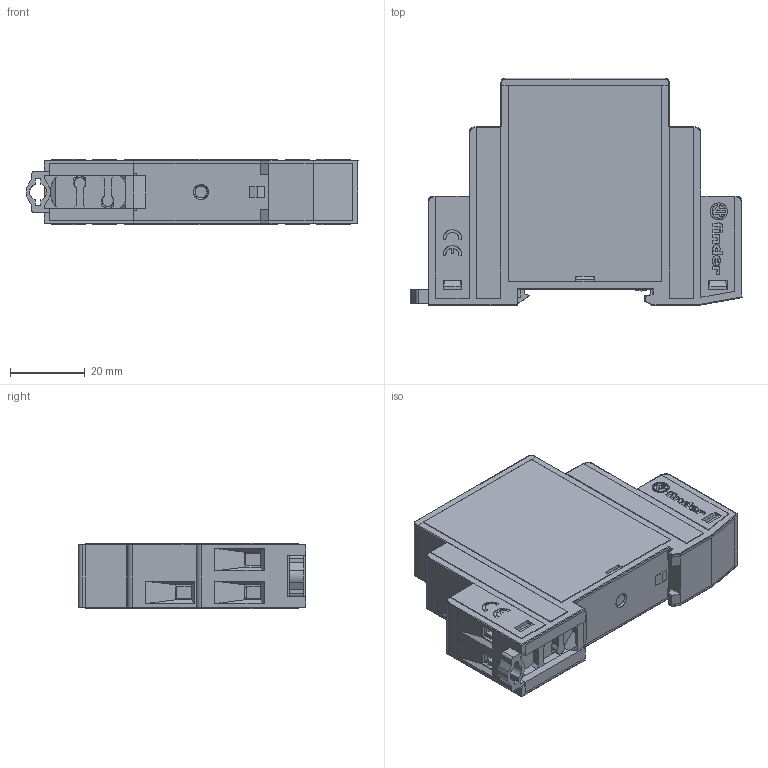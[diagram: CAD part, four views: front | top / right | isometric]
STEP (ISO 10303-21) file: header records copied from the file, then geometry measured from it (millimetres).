
FILE_DESCRIPTION(('STEP AP214'),'2;1');
FILE_NAME('7011.stp','2011-07-28T07:59:44',(''),(''),'2007.1.106','THINKDESIGN','');
FILE_SCHEMA(('AUTOMOTIVE_DESIGN'));
Products named in the file (1): None
Bounding box: 88.85 x 60.8 x 17.5 mm (x, y, z)
Surface area: 22748.4 mm2 (no closed solid volume)
Topology: 0 solids, 0 shells, 1181 faces, 7297 edges, 7291 vertices
Faces by surface type: plane 935, cylinder 125, bspline 121
Full cylindrical faces by diameter (mm): 3 x7, 5 x8
Entity records: 73497 total; most frequent: CARTESIAN_POINT 22543, DIRECTION 8735, COMPOSITE_CURVE_SEGMENT 7297, TRIMMED_CURVE 6349, VECTOR 6129, LINE 6129, AXIS2_PLACEMENT_3D 1303, OUTER_BOUNDARY_CURVE 1181
